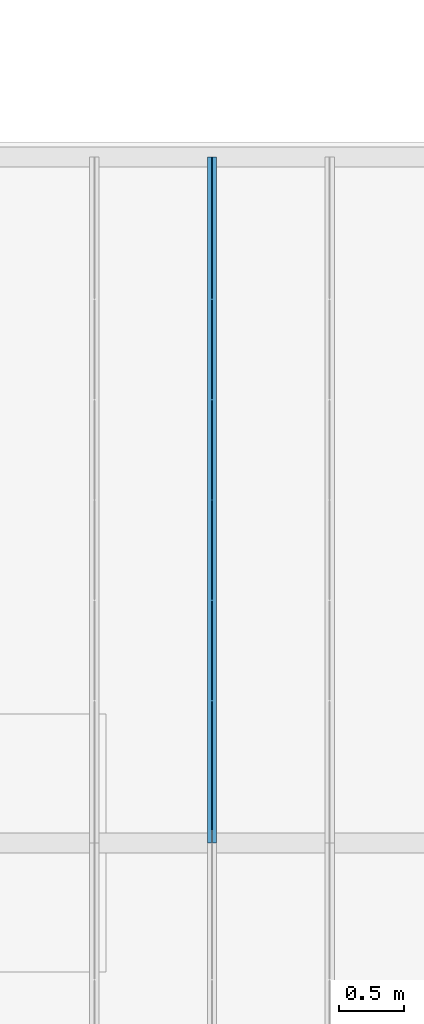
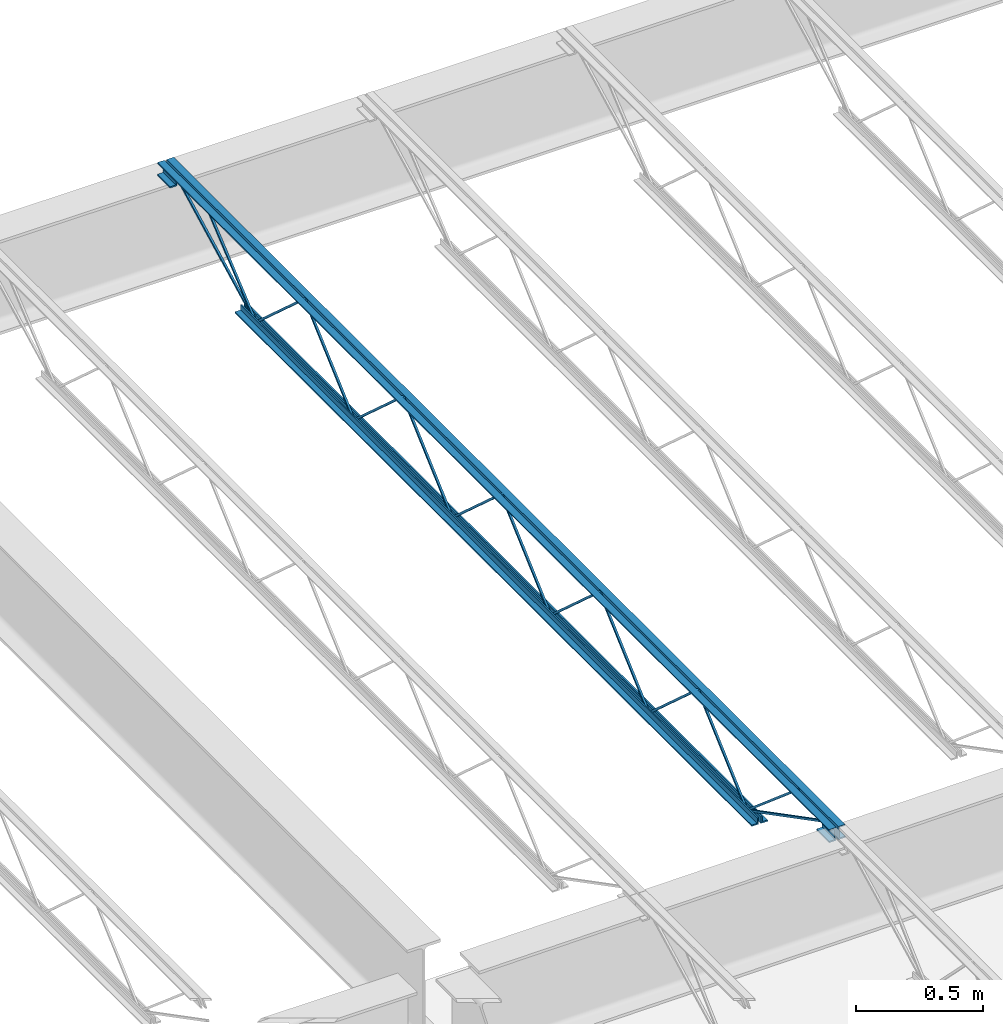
# One storey, part 73 of 75: 1 beam.
"""IFC2X3 building model written with IfcOpenShell, lengths in metres."""

from ifc_helpers import new_model, entity, si_unit, converted_unit, frame, origin, place, context, project, spatial, face_set, surface_model, element, save


model = new_model("IFC2X3")

# Units and contexts
model_context = context("Model", 3, precision=1e-09, world=origin())
plan_context = context("Plan", 3, precision=1e-09, world=origin())
ifc_project = project(units=[si_unit("LENGTHUNIT", "METRE"), si_unit("AREAUNIT", "SQUARE_METRE"), si_unit("VOLUMEUNIT", "CUBIC_METRE"), converted_unit("PLANEANGLEUNIT", "DEGREE", entity("IfcRatioMeasure", 0.01745329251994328), si_unit("PLANEANGLEUNIT", "RADIAN"), dimensions=[0, 0, 0, 0, 0, 0, 0]), si_unit("TIMEUNIT", "SECOND")], contexts=[model_context, plan_context])

# Site, building, storey
site_placement = place(None, origin())
site = spatial("IfcSite", under=ifc_project, at=site_placement, Name="Default", CompositionType="ELEMENT")
building_placement = place(site_placement, origin())
building = spatial("IfcBuilding", under=site, at=building_placement, CompositionType="ELEMENT")
storey_placement = place(building_placement, origin())
storey = spatial("IfcBuildingStorey", under=building, at=storey_placement, Name="First Floor", CompositionType="ELEMENT", Elevation=-3.531500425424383e-13)

# Beam
beam_placement = place(storey_placement, frame((-5.49675, 44.78049999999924, 4.112000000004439), z_axis=(0.0, 0.0, 1.0), x_axis=(-1.0, 0.0, 0.0)))
element("IfcBeam", 1, at=beam_placement, inside=storey, Name="M_K-Series Bar Joist-Rod Web:14K1:14K1", ObjectType="M_K-Series Bar Joist-Rod Web:14K1", context=model_context, shape_type="SurfaceModel", body=[
    surface_model("IfcFaceBasedSurfaceModel", [(-0.03200000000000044, -2.266000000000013, 0.01110000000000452), (-0.04150000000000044, -2.266000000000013, 0.01110000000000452), (-0.04150000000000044, -2.266000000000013, 0.001600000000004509), (-0.03200000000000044, -2.266000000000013, 0.001600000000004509), (-0.04150000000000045, -2.264645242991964, 0.01110000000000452), (-0.03200000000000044, -2.264645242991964, 0.01110000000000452), (-0.04150000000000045, -2.26100475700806, 0.001600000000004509), (-0.04150000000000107, -1.878854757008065, 0.3449000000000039), (-0.04150000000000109, -1.876145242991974, 0.3449000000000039), (-0.04150000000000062, -1.493995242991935, 0.001600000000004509), (-0.04150000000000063, -1.489000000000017, 0.001600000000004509), (-0.04150000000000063, -1.489000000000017, 0.01110000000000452), (-0.04150000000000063, -1.490354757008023, 0.01110000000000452), (-0.0415, -1.872504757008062, 0.3544000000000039), (-0.04149999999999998, -1.882495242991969, 0.3544000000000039), (-0.03200000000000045, -2.26100475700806, 0.001600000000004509), (-0.03199999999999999, -1.878854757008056, 0.3449000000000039), (-0.03199999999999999, -1.876145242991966, 0.3449000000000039), (-0.03200000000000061, -1.493995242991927, 0.001600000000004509), (-0.03200000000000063, -1.489000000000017, 0.001600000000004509), (-0.03200000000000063, -1.489000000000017, 0.01110000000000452), (-0.03200000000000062, -1.490354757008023, 0.01110000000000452), (-0.03200000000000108, -1.872504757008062, 0.3544000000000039), (-0.03200000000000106, -1.882495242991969, 0.3544000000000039), (-0.03200000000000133, -3.04300000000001, 0.01110000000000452), (-0.04150000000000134, -3.04300000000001, 0.01110000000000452), (-0.04150000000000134, -3.04300000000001, 0.001600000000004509), (-0.03200000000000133, -3.04300000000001, 0.001600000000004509), (-0.04150000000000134, -3.041645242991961, 0.01110000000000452), (-0.03200000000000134, -3.041645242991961, 0.01110000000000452), (-0.04150000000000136, -3.038004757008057, 0.001600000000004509), (-0.04150000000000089, -2.655854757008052, 0.3449000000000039), (-0.0415000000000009, -2.653145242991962, 0.3449000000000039), (-0.04150000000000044, -2.270995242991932, 0.001600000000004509), (-0.04150000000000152, -2.266000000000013, 0.01110000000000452), (-0.04150000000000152, -2.26735475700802, 0.01110000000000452), (-0.0415000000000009, -2.649504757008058, 0.3544000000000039), (-0.04150000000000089, -2.659495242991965, 0.3544000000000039), (-0.03200000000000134, -3.038004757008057, 0.001600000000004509), (-0.03200000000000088, -2.655854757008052, 0.3449000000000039), (-0.03200000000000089, -2.653145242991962, 0.3449000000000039), (-0.03200000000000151, -2.270995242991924, 0.001600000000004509), (-0.03200000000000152, -2.266000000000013, 0.001600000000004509), (-0.03200000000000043, -2.26735475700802, 0.01110000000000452), (-0.0320000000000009, -2.649504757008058, 0.3544000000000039), (-0.03200000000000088, -2.659495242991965, 0.3544000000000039), (-0.03200000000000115, -3.820000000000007, 0.01110000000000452), (-0.04150000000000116, -3.820000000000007, 0.01110000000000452), (-0.04150000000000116, -3.820000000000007, 0.001600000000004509), (-0.03200000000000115, -3.820000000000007, 0.001600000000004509), (-0.04150000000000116, -3.818645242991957, 0.01110000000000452), (-0.03200000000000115, -3.818645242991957, 0.01110000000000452), (-0.04150000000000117, -3.815004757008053, 0.001600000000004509), (-0.0415000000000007, -3.432854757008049, 0.3449000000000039), (-0.04150000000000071, -3.430145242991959, 0.3449000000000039), (-0.04150000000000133, -3.04799524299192, 0.001600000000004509), (-0.04150000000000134, -3.043000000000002, 0.001600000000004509), (-0.04150000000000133, -3.044354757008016, 0.01110000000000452), (-0.04150000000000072, -3.426504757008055, 0.3544000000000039), (-0.0415000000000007, -3.436495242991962, 0.3544000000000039), (-0.03200000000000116, -3.815004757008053, 0.001600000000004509), (-0.0320000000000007, -3.432854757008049, 0.3449000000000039), (-0.0320000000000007, -3.430145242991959, 0.3449000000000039), (-0.03200000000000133, -3.04799524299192, 0.001600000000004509), (-0.03200000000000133, -3.043000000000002, 0.01110000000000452), (-0.03200000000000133, -3.044354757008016, 0.01110000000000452), (-0.03200000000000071, -3.426504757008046, 0.3544000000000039), (-0.0320000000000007, -3.436495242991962, 0.3544000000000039), (-0.03200000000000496, -1.489000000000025, 0.01109999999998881), (-0.04150000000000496, -1.489000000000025, 0.01109999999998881), (-0.04150000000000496, -1.489000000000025, 0.001599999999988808), (-0.03200000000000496, -1.489000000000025, 0.001599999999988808), (-0.04150000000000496, -1.487645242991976, 0.01109999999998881), (-0.03200000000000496, -1.487645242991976, 0.01109999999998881), (-0.04150000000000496, -1.484004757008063, 0.001599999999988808), (-0.04150000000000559, -1.101854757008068, 0.3448999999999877), (-0.04150000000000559, -1.099145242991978, 0.3448999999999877), (-0.04150000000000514, -0.7169952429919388, 0.001599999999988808), (-0.04150000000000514, -0.7120000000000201, 0.001599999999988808), (-0.04150000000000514, -0.7120000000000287, 0.01109999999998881), (-0.04150000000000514, -0.7133547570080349, 0.01109999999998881), (-0.04150000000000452, -1.095504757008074, 0.3543999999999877), (-0.0415000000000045, -1.10549524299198, 0.3543999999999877), (-0.03200000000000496, -1.484004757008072, 0.001599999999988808), (-0.0320000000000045, -1.101854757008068, 0.3448999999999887), (-0.0320000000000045, -1.099145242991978, 0.3448999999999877), (-0.03200000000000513, -0.7169952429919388, 0.001599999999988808), (-0.03200000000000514, -0.7120000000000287, 0.001599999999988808), (-0.03200000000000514, -0.7120000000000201, 0.01109999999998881), (-0.03200000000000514, -0.7133547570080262, 0.01109999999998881), (-0.03200000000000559, -1.095504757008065, 0.3543999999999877), (-0.03200000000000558, -1.10549524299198, 0.3543999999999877), (-0.03200000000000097, -4.597000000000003, 0.01110000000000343), (-0.04150000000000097, -4.597000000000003, 0.01110000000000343), (-0.04150000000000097, -4.597000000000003, 0.001600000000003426), (-0.03200000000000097, -4.597000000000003, 0.001600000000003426), (-0.04150000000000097, -4.595645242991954, 0.01110000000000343), (-0.03200000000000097, -4.595645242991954, 0.01110000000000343), (-0.04150000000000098, -4.592004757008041, 0.001600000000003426), (-0.04150000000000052, -4.209854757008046, 0.3449000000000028), (-0.04150000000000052, -4.207145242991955, 0.3449000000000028), (-0.04150000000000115, -3.824995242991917, 0.001600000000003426), (-0.04150000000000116, -3.819999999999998, 0.001600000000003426), (-0.04150000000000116, -3.820000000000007, 0.01110000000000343), (-0.04150000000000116, -3.821354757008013, 0.01110000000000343), (-0.04150000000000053, -4.203504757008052, 0.3544000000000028), (-0.04150000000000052, -4.213495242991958, 0.3544000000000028), (-0.03200000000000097, -4.592004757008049, 0.001600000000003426), (-0.03200000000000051, -4.209854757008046, 0.3449000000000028), (-0.03200000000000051, -4.207145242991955, 0.3449000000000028), (-0.03200000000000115, -3.824995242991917, 0.001600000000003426), (-0.03200000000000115, -3.820000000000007, 0.001600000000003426), (-0.03200000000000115, -3.819999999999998, 0.01110000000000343), (-0.03200000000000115, -3.821354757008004, 0.01110000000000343), (-0.03200000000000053, -4.203504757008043, 0.3544000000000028), (-0.03200000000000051, -4.21349524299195, 0.3544000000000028), (-0.04150000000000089, 0.0, 0.3560000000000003), (-0.07350000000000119, 0.0, 0.3560000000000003), (-0.07350000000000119, 0.0, 0.3494999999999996), (-0.04800000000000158, 0.0, 0.3494999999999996), (-0.04800000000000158, 0.0, 0.3239999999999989), (-0.04150000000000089, 0.0, 0.3239999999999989), (-0.03200000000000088, 0.0, 0.3560000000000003), (-0.03200000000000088, 0.0, 0.3239999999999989), (-0.02550000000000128, 0.0, 0.3239999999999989), (-0.02550000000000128, 0.0, 0.3494999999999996), (0.0, 0.0, 0.3494999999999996), (0.0, 0.0, 0.3560000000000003), (-0.0415000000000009, -5.309000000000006, 0.3560000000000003), (-0.0735000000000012, -5.309000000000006, 0.3560000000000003), (-0.0735000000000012, -5.309000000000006, 0.3494999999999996), (-0.04800000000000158, -5.309000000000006, 0.3494999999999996), (-0.04800000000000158, -5.309000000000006, 0.3239999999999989), (-0.0415000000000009, -5.309000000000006, 0.3239999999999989), (-0.03200000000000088, -5.309000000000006, 0.3560000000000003), (-0.03200000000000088, -5.309000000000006, 0.3239999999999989), (-0.02550000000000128, -5.309000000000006, 0.3239999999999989), (-0.02550000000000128, -5.309000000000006, 0.3494999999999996), (0.0, -5.309000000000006, 0.3494999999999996), (0.0, -5.309000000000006, 0.3560000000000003), (-0.03200000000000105, -5.20900000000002, 0.2924999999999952), (0.0, -5.20900000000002, 0.2924999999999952), (0.0, -5.20900000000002, 0.2989999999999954), (-0.02550000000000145, -5.20900000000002, 0.2989999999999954), (-0.02550000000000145, -5.20900000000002, 0.3239999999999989), (-0.03200000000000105, -5.20900000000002, 0.3239999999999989), (-0.07350000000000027, -5.20900000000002, 0.2924999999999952), (-0.04150000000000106, -5.20900000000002, 0.2924999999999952), (-0.04150000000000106, -5.20900000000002, 0.3239999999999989), (-0.04800000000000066, -5.20900000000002, 0.3239999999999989), (-0.04800000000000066, -5.20900000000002, 0.2989999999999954), (-0.07350000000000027, -5.20900000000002, 0.2989999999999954), (-0.03200000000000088, -5.309000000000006, 0.2924999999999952), (0.0, -5.309000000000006, 0.2924999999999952), (0.0, -5.309000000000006, 0.2989999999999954), (-0.02550000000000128, -5.309000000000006, 0.2989999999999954), (-0.07350000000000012, -5.309000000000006, 0.2924999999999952), (-0.0415000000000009, -5.309000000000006, 0.2924999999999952), (-0.0480000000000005, -5.309000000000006, 0.3239999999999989), (-0.0480000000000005, -5.309000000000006, 0.2989999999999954), (-0.07350000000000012, -5.309000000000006, 0.2989999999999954), (-0.04150000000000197, 0.0, 0.2924999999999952), (-0.04150000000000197, 0.0, 0.3239999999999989), (-0.04800000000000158, 0.0, 0.2989999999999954), (-0.07350000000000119, 0.0, 0.2989999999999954), (-0.07350000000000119, 0.0, 0.2924999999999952), (-0.03200000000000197, 0.0, 0.2924999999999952), (0.0, 0.0, 0.2924999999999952), (0.0, 0.0, 0.2989999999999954), (-0.02550000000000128, 0.0, 0.2989999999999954), (-0.03200000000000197, 0.0, 0.3239999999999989), (-0.04150000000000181, -0.1000000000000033, 0.2924999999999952), (-0.04150000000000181, -0.1000000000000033, 0.3239999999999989), (-0.04800000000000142, -0.1000000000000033, 0.3239999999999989), (-0.04800000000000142, -0.1000000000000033, 0.2989999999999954), (-0.07350000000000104, -0.1000000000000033, 0.2989999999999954), (-0.07350000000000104, -0.1000000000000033, 0.2924999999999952), (-0.03200000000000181, -0.1000000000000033, 0.2924999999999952), (0.0, -0.1000000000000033, 0.2924999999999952), (0.0, -0.1000000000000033, 0.2989999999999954), (-0.02550000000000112, -0.1000000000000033, 0.2989999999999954), (-0.02550000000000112, -0.1000000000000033, 0.3239999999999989), (-0.03200000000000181, -0.1000000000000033, 0.3239999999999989), (-0.04150000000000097, -0.6119999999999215, 0.0), (-0.04150000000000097, -0.6119999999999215, 0.03199999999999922), (-0.04800000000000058, -0.6119999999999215, 0.03199999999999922), (-0.04800000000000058, -0.6119999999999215, 0.006500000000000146), (-0.07350000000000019, -0.6119999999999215, 0.006500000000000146), (-0.07350000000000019, -0.6119999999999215, 0.0), (-0.03200000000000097, -0.6119999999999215, 0.0), (0.0, -0.6119999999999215, 0.0), (0.0, -0.6119999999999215, 0.006500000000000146), (-0.02550000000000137, -0.6119999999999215, 0.006500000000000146), (-0.02550000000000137, -0.6119999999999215, 0.03199999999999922), (-0.03200000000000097, -0.6119999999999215, 0.03199999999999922), (-0.04150000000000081, -4.696999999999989, 0.0), (-0.04150000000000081, -4.696999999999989, 0.03199999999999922), (-0.04800000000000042, -4.696999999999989, 0.03199999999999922), (-0.04800000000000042, -4.696999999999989, 0.006500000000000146), (-0.07350000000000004, -4.696999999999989, 0.006500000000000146), (-0.07350000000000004, -4.696999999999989, 0.0), (-0.0320000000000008, -4.696999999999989, 0.0), (0.0, -4.696999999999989, 0.0), (0.0, -4.696999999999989, 0.006500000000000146), (-0.0255000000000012, -4.696999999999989, 0.006500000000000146), (-0.0255000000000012, -4.696999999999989, 0.03199999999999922), (-0.0320000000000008, -4.696999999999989, 0.03199999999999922), (-0.03200000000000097, -4.594811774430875, 0.0105659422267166), (-0.04150000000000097, -4.594811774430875, 0.0105659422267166), (-0.04150000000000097, -4.599188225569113, 0.002134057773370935), (-0.03200000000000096, -4.599188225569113, 0.002134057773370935), (-0.03200000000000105, -5.207840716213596, 0.32875), (-0.03200000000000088, -5.308999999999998, 0.32875), (-0.03200000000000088, -5.308999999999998, 0.31925), (-0.03200000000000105, -5.210159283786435, 0.31925), (-0.04150000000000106, -5.210159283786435, 0.31925), (-0.04150000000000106, -5.207840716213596, 0.32875), (-0.0415000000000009, -5.308999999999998, 0.32875), (-0.0415000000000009, -5.309000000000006, 0.31925), (-0.03200000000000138, -5.005457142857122, 0.3417000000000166), (-0.04150000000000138, -5.005457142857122, 0.3417000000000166), (-0.04150000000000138, -5.005457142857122, 0.3322000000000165), (-0.03200000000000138, -5.005457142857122, 0.3322000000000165), (-0.04150000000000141, -4.991034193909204, 0.3417000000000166), (-0.0320000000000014, -4.991034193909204, 0.3417000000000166), (-0.0415000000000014, -4.994480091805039, 0.3322000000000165), (-0.04150000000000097, -4.600045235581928, 0.002704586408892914), (-0.04150000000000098, -4.593954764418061, 0.00999541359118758), (-0.0320000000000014, -4.994480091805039, 0.3322000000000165), (-0.03200000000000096, -4.600045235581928, 0.002704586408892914), (-0.03200000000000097, -4.593954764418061, 0.009995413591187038), (-0.03200000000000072, -0.09781177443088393, 0.3197840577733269), (-0.03200000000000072, -0.1021882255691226, 0.3282159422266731), (-0.04150000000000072, -0.1021882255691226, 0.3282159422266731), (-0.04150000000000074, -0.09781177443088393, 0.3197840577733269), (-0.03200000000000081, -0.7098117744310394, 0.002134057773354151), (-0.0320000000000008, -0.714188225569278, 0.01056594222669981), (-0.04150000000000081, -0.714188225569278, 0.01056594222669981), (-0.04150000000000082, -0.7098117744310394, 0.002134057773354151), (-0.03200000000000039, -0.3059055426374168, 0.3460340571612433), (-0.03200000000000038, -0.3120658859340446, 0.3532659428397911), (-0.04150000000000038, -0.3120658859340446, 0.3532659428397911), (-0.04150000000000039, -0.3059055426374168, 0.3460340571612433), (-0.03200000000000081, -0.7089198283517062, 0.002734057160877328), (-0.0320000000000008, -0.7150801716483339, 0.009965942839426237), (-0.04150000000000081, -0.7150801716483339, 0.009965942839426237), (-0.04150000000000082, -0.7089198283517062, 0.002734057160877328)], [face_set([[[0, 1, 2, 3]], [[1, 4, 5, 0]], [[2, 6, 7, 8, 9, 10, 11, 12, 13, 14, 4, 1]], [[3, 2, 6, 15]], [[0, 3, 15, 16, 17, 18, 19, 20, 21, 22, 23, 5]], [[4, 5, 23, 14]], [[15, 16, 7, 6]], [[14, 13, 22, 23]], [[16, 7, 8, 17]], [[13, 12, 21, 22]], [[17, 8, 9, 18]], [[20, 11, 10, 19]], [[12, 11, 20, 21]], [[18, 9, 10, 19]]]), face_set([[[24, 25, 26, 27]], [[25, 28, 29, 24]], [[26, 30, 31, 32, 33, 2, 34, 35, 36, 37, 28, 25]], [[27, 26, 30, 38]], [[24, 27, 38, 39, 40, 41, 42, 0, 43, 44, 45, 29]], [[28, 29, 45, 37]], [[38, 39, 31, 30]], [[37, 36, 44, 45]], [[39, 31, 32, 40]], [[36, 35, 43, 44]], [[40, 32, 33, 41]], [[0, 34, 2, 42]], [[35, 34, 0, 43]], [[41, 33, 2, 42]]]), face_set([[[46, 47, 48, 49]], [[47, 50, 51, 46]], [[48, 52, 53, 54, 55, 56, 25, 57, 58, 59, 50, 47]], [[49, 48, 52, 60]], [[46, 49, 60, 61, 62, 63, 27, 64, 65, 66, 67, 51]], [[50, 51, 67, 59]], [[60, 61, 53, 52]], [[59, 58, 66, 67]], [[61, 53, 54, 62]], [[58, 57, 65, 66]], [[62, 54, 55, 63]], [[64, 25, 56, 27]], [[57, 25, 64, 65]], [[63, 55, 56, 27]]]), face_set([[[68, 69, 70, 71]], [[69, 72, 73, 68]], [[70, 74, 75, 76, 77, 78, 79, 80, 81, 82, 72, 69]], [[71, 70, 74, 83]], [[68, 71, 83, 84, 85, 86, 87, 88, 89, 90, 91, 73]], [[72, 73, 91, 82]], [[83, 84, 75, 74]], [[82, 81, 90, 91]], [[84, 75, 76, 85]], [[81, 80, 89, 90]], [[85, 76, 77, 86]], [[88, 79, 78, 87]], [[80, 79, 88, 89]], [[86, 77, 78, 87]]]), face_set([[[92, 93, 94, 95]], [[93, 96, 97, 92]], [[94, 98, 99, 100, 101, 102, 103, 104, 105, 106, 96, 93]], [[95, 94, 98, 107]], [[92, 95, 107, 108, 109, 110, 111, 112, 113, 114, 115, 97]], [[96, 97, 115, 106]], [[107, 108, 99, 98]], [[106, 105, 114, 115]], [[108, 99, 100, 109]], [[105, 104, 113, 114]], [[109, 100, 101, 110]], [[112, 103, 102, 111]], [[104, 103, 112, 113]], [[110, 101, 102, 111]]]), face_set([[[116, 117, 118, 119, 120, 121]], [[122, 123, 124, 125, 126, 127]], [[128, 129, 130, 131, 132, 133]], [[134, 135, 136, 137, 138, 139]], [[121, 116, 128, 133]], [[120, 121, 133, 132]], [[119, 131, 132, 120]], [[118, 119, 131, 130]], [[117, 129, 130, 118]], [[116, 128, 129, 117]], [[127, 139, 134, 122]], [[126, 127, 139, 138]], [[125, 126, 138, 137]], [[124, 125, 137, 136]], [[123, 124, 136, 135]], [[122, 134, 135, 123]]]), face_set([[[140, 141, 142, 143, 144, 145]], [[146, 147, 148, 149, 150, 151]], [[152, 153, 154, 155, 136, 135]], [[156, 157, 133, 158, 159, 160]], [[145, 135, 152, 140]], [[144, 136, 135, 145]], [[143, 144, 136, 155]], [[142, 154, 155, 143]], [[141, 142, 154, 153]], [[140, 141, 153, 152]], [[151, 160, 156, 146]], [[150, 159, 160, 151]], [[149, 158, 159, 150]], [[148, 133, 158, 149]], [[147, 148, 133, 157]], [[146, 147, 157, 156]]]), face_set([[[161, 162, 120, 163, 164, 165]], [[166, 167, 168, 169, 124, 170]], [[171, 172, 173, 174, 175, 176]], [[177, 178, 179, 180, 181, 182]], [[165, 161, 171, 176]], [[164, 175, 176, 165]], [[163, 174, 175, 164]], [[120, 173, 174, 163]], [[162, 172, 173, 120]], [[161, 162, 172, 171]], [[170, 182, 177, 166]], [[124, 181, 182, 170]], [[169, 124, 181, 180]], [[168, 179, 180, 169]], [[167, 168, 179, 178]], [[166, 167, 178, 177]]]), face_set([[[183, 184, 185, 186, 187, 188]], [[189, 190, 191, 192, 193, 194]], [[195, 196, 197, 198, 199, 200]], [[201, 202, 203, 204, 205, 206]], [[188, 183, 195, 200]], [[187, 199, 200, 188]], [[186, 198, 199, 187]], [[185, 197, 198, 186]], [[184, 196, 197, 185]], [[183, 184, 196, 195]], [[194, 206, 201, 189]], [[193, 205, 206, 194]], [[192, 193, 205, 204]], [[191, 203, 204, 192]], [[190, 191, 203, 202]], [[189, 190, 202, 201]]]), face_set([[[207, 208, 209, 210]], [[210, 207, 211, 212, 213, 214]], [[209, 210, 214, 215]], [[208, 216, 217, 218, 215, 209]], [[207, 211, 216, 208]], [[212, 217, 218, 213]], [[215, 214, 213, 218]], [[211, 212, 217, 216]]]), face_set([[[219, 220, 221, 222]], [[220, 223, 224, 219]], [[221, 225, 226, 227, 223, 220]], [[222, 221, 225, 228]], [[219, 222, 228, 229, 230, 224]], [[230, 227, 226, 229]], [[223, 227, 230, 224]], [[228, 225, 226, 229]]]), face_set([[[231, 232, 233, 234]], [[235, 236, 237, 238]], [[234, 238, 235, 231]], [[233, 237, 238, 234]], [[232, 233, 237, 236]], [[231, 232, 236, 235]]]), face_set([[[239, 240, 241, 242]], [[243, 244, 245, 246]], [[242, 246, 243, 239]], [[241, 245, 246, 242]], [[240, 241, 245, 244]], [[239, 240, 244, 243]]])]),
])

save(model, "model.ifc")
